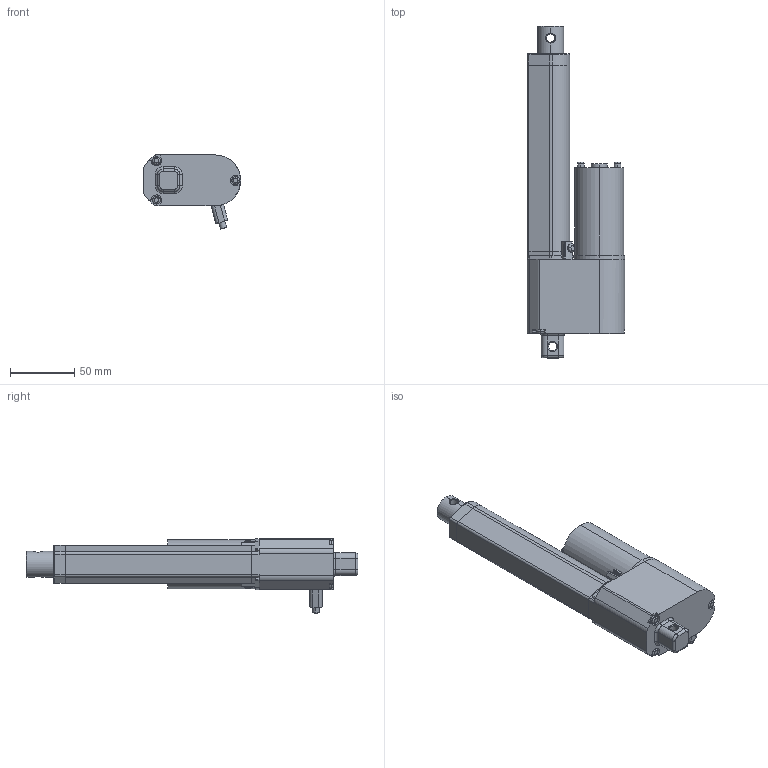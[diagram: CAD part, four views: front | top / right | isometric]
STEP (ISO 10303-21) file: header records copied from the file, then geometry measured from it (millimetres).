
FILE_DESCRIPTION (( 'STEP AP203' ), '1' );
FILE_NAME ('KTC-D24-100 _ 3D.STEP', '2018-08-23T15:36:48', ( '' ), ( '' ), 'SwSTEP 2.0', 'SolidWorks 2018', '' );
FILE_SCHEMA (( 'CONFIG_CONTROL_DESIGN' ));
Length unit declared in the file: millimetre
Products named in the file (3): KTC-D24-100 _ 3D; KTC-D24_3D(polegada)5; KTC-D24_3D(polegada)2
Assembly tree (2 placements, depth 2):
  KTC-D24-100 _ 3D
    KTC-D24_3D(polegada)5
    KTC-D24_3D(polegada)2
Bounding box: 75.69 x 258.29 x 57.66 mm (x, y, z)
Volume: 380505.6 mm3; surface area: 55262.4 mm2
Topology: 5 solids, 5 shells, 236 faces, 587 edges, 374 vertices
Faces by surface type: cylinder 112, plane 67, torus 36, cone 17, bspline 4
Entity records: 8819 total; most frequent: CARTESIAN_POINT 2711, DIRECTION 1327, ORIENTED_EDGE 1174, EDGE_CURVE 587, AXIS2_PLACEMENT_3D 539, VERTEX_POINT 374, CIRCLE 302, EDGE_LOOP 253
